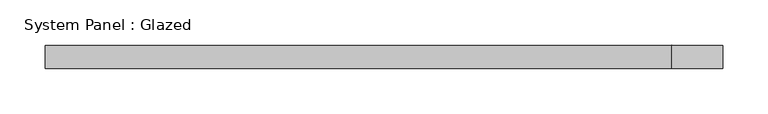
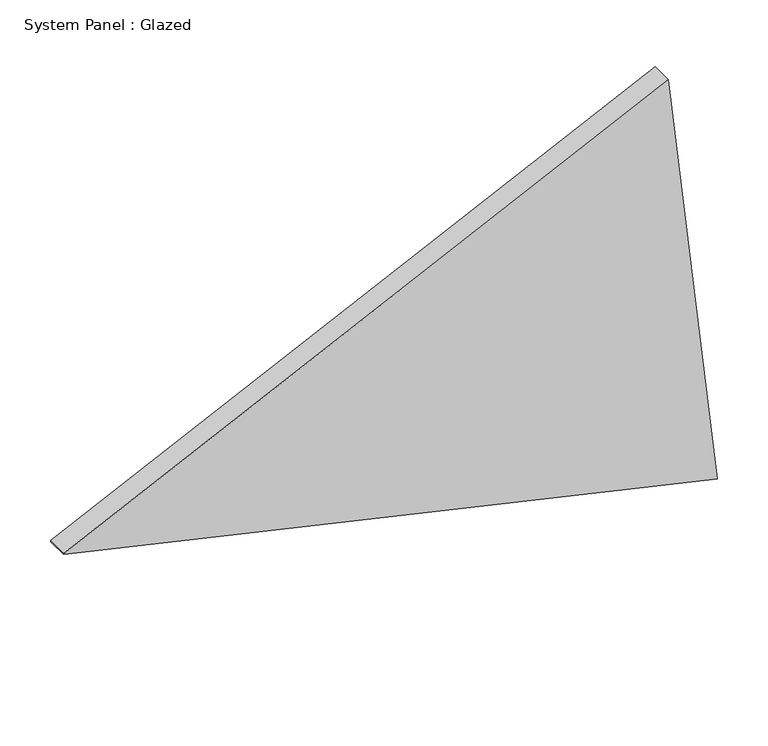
"""IFC4 building model written with IfcOpenShell, lengths in millimetres: plate geometry, System Panel : Glazed."""

from ifc_helpers import new_model, si_unit, frame, origin, place, context, project, spatial, polyline, outline, extrude, source, transform, mapped, element, save


def system_panel_glazed_d5916fc8(model_context):
    return source(origin(), model_context, "Body", "SweptSolid", [
        extrude(outline(polyline([(169.4405065, -371.8007485), (0.0, 371.9865474), (500.2473011, 316.196535), (171.1064924, -371.9865474), (169.4405065, -371.8007485)])), frame((0.0, -44.45, 0.0), z_axis=(0.0, 1.0, 0.0), x_axis=(0.0, 0.0, 1.0)), (0.0, 0.0, 1.0), 25.4),
    ])


if __name__ == "__main__":
    model = new_model("IFC4")
    model_context = context("Model", 3, world=origin())
    ifc_project = project(units=[si_unit("LENGTHUNIT", "METRE", prefix="MILLI")], contexts=[model_context])
    site = spatial("IfcSite", under=ifc_project)
    building = spatial("IfcBuilding", under=site)
    placement = place(None, origin())
    system_panel_glazed_shape = system_panel_glazed_d5916fc8(model_context)
    element("IfcPlate", 1, ObjectType="System Panel : Glazed", at=placement, inside=building, context=model_context, shape_type="MappedRepresentation", body=[
        mapped(system_panel_glazed_shape, transform((0.0, 0.0, 0.0), x_axis=(1.0, 0.0, 0.0), y_axis=(0.0, 1.0, 0.0), z_axis=(0.0, 0.0, 1.0))),
    ])
    save(model, "model.ifc")
